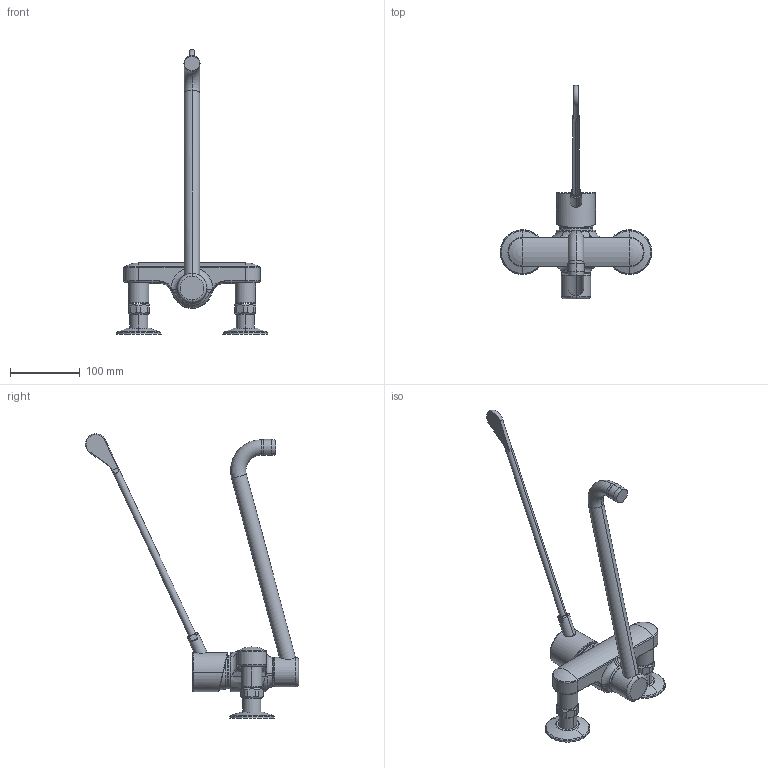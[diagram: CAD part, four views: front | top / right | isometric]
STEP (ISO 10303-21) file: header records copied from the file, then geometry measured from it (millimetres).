
FILE_DESCRIPTION((''),'2;1');
FILE_NAME('K_24_62_16_000B91','2012-01-04T',('HEF'),(''),'PRO/ENGINEER BY PARAMETRIC TECHNOLOGY CORPORATION, 2011080','PRO/ENGINEER BY PARAMETRIC TECHNOLOGY CORPORATION, 2011080','');
FILE_SCHEMA(('AUTOMOTIVE_DESIGN_CC2 { 1 2 10303 214 -1 1 5 2 }'));
Length unit declared in the file: millimetre
Products named in the file (1): K_24_62_16_000B91
Bounding box: 217.35 x 305.59 x 407.59 mm (x, y, z)
Volume: 791907.9 mm3; surface area: 112645.7 mm2
Topology: 3 solids, 3 shells, 253 faces, 610 edges, 373 vertices
Faces by surface type: plane 74, cylinder 56, torus 46, bspline 33, cone 30, sphere 12, extrusion 2
Entity records: 14036 total; most frequent: CARTESIAN_POINT 5523, DIRECTION 1227, ORIENTED_EDGE 1208, EDGE_CURVE 604, AXIS2_PLACEMENT_3D 541, FILL_AREA_STYLE_COLOUR 443, FILL_AREA_STYLE 443, SURFACE_STYLE_FILL_AREA 443
